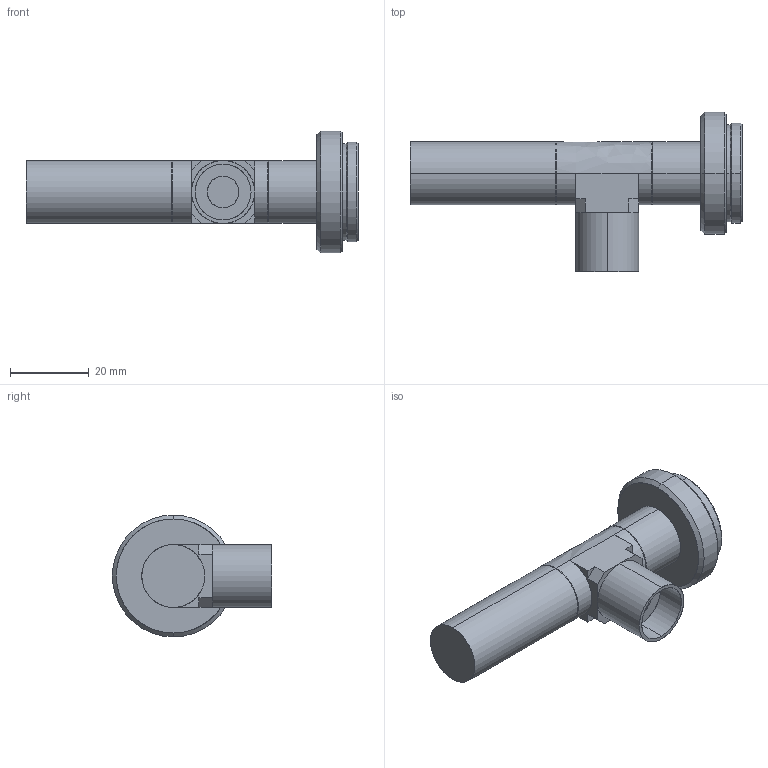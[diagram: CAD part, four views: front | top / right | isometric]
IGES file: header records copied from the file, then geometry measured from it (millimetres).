
Start section: SolidWorks IGES file using analytic representation for surfaces
Bounding box: 84.4 x 40.5 x 31 mm (x, y, z)
Surface area: 7669.3 mm2 (no closed solid volume)
Topology: 0 solids, 0 shells, 58 faces, 700 edges, 700 vertices
Faces by surface type: revolution 35, bspline 23
